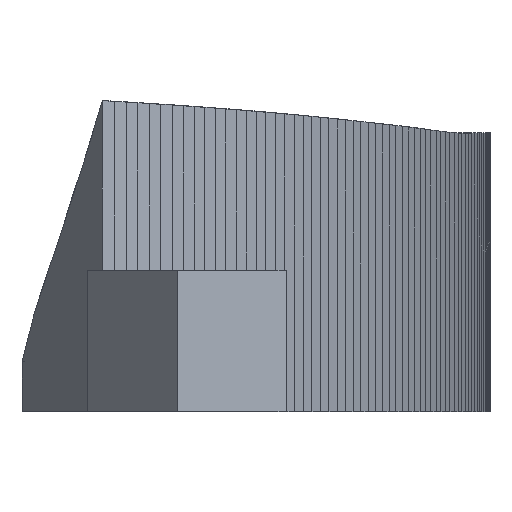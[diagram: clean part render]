
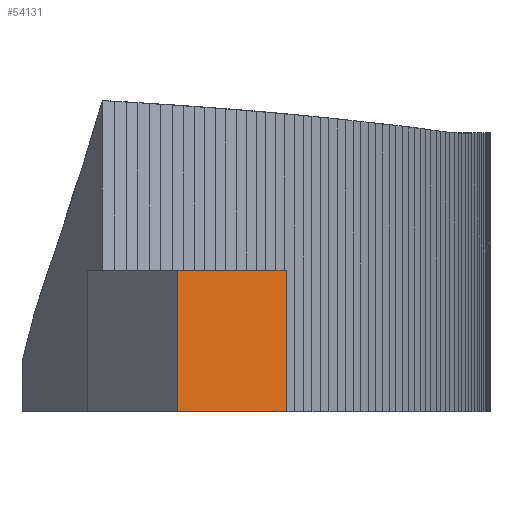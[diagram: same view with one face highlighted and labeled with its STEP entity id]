
A CAD part, front view. The second image highlights one B-rep face of the part: STEP entity #54131.
In plain terms, the highlighted planar face has unit normal (0.64, -0.768, 0).
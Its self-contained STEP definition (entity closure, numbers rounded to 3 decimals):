
#44 = PLANE('',#45);
#45 = AXIS2_PLACEMENT_3D('',#46,#47,#48);
#46 = CARTESIAN_POINT('',(15.682,0.,
    5.176));
#47 = DIRECTION('',(-0.,-0.,-1.));
#48 = DIRECTION('',(-1.,0.,0.));
#24585 = VERTEX_POINT('',#24586);
#24586 = CARTESIAN_POINT('',(15.716,-16.517,
    5.176));
#24600 = PLANE('',#24601);
#24601 = AXIS2_PLACEMENT_3D('',#24602,#24603,#24604);
#24602 = CARTESIAN_POINT('',(13.795,-14.213,
    5.176));
#24603 = DIRECTION('',(0.768,0.64,-0.));
#24604 = DIRECTION('',(0.64,-0.768,0.));
#24612 = EDGE_CURVE('',#24585,#24613,#24615,.T.);
#24613 = VERTEX_POINT('',#24614);
#24614 = CARTESIAN_POINT('',(13.411,-18.438,
    5.176));
#24615 = SURFACE_CURVE('',#24616,(#24620,#24627),.PCURVE_S1.);
#24616 = LINE('',#24617,#24618);
#24617 = CARTESIAN_POINT('',(15.716,-16.517,
    5.176));
#24618 = VECTOR('',#24619,1.);
#24619 = DIRECTION('',(-0.768,-0.64,0.));
#24620 = PCURVE('',#44,#24621);
#24621 = DEFINITIONAL_REPRESENTATION('',(#24622),#24626);
#24622 = LINE('',#24623,#24624);
#24623 = CARTESIAN_POINT('',(-0.034,-16.517));
#24624 = VECTOR('',#24625,1.);
#24625 = DIRECTION('',(0.768,-0.64));
#24626 = ( GEOMETRIC_REPRESENTATION_CONTEXT(2) 
PARAMETRIC_REPRESENTATION_CONTEXT() REPRESENTATION_CONTEXT('2D SPACE',''
  ) );
#24627 = PCURVE('',#24628,#24633);
#24628 = PLANE('',#24629);
#24629 = AXIS2_PLACEMENT_3D('',#24630,#24631,#24632);
#24630 = CARTESIAN_POINT('',(15.716,-16.517,
    5.176));
#24631 = DIRECTION('',(0.64,-0.768,0.));
#24632 = DIRECTION('',(-0.768,-0.64,0.));
#24633 = DEFINITIONAL_REPRESENTATION('',(#24634),#24638);
#24634 = LINE('',#24635,#24636);
#24635 = CARTESIAN_POINT('',(0.,0.));
#24636 = VECTOR('',#24637,1.);
#24637 = DIRECTION('',(1.,0.));
#24638 = ( GEOMETRIC_REPRESENTATION_CONTEXT(2) 
PARAMETRIC_REPRESENTATION_CONTEXT() REPRESENTATION_CONTEXT('2D SPACE',''
  ) );
#24656 = PLANE('',#24657);
#24657 = AXIS2_PLACEMENT_3D('',#24658,#24659,#24660);
#24658 = CARTESIAN_POINT('',(13.411,-18.438,
    5.176));
#24659 = DIRECTION('',(-0.768,-0.64,0.));
#24660 = DIRECTION('',(-0.64,0.768,0.));
#53906 = PLANE('',#53907);
#53907 = AXIS2_PLACEMENT_3D('',#53908,#53909,#53910);
#53908 = CARTESIAN_POINT('',(13.603,-16.325,
    8.176));
#53909 = DIRECTION('',(-0.,-0.,-1.));
#53910 = DIRECTION('',(-1.,0.,0.));
#54062 = VERTEX_POINT('',#54063);
#54063 = CARTESIAN_POINT('',(15.716,-16.517,
    8.176));
#54084 = EDGE_CURVE('',#24585,#54062,#54085,.T.);
#54085 = SURFACE_CURVE('',#54086,(#54090,#54097),.PCURVE_S1.);
#54086 = LINE('',#54087,#54088);
#54087 = CARTESIAN_POINT('',(15.716,-16.517,
    5.176));
#54088 = VECTOR('',#54089,1.);
#54089 = DIRECTION('',(0.,0.,1.));
#54090 = PCURVE('',#24600,#54091);
#54091 = DEFINITIONAL_REPRESENTATION('',(#54092),#54096);
#54092 = LINE('',#54093,#54094);
#54093 = CARTESIAN_POINT('',(3.,0.));
#54094 = VECTOR('',#54095,1.);
#54095 = DIRECTION('',(0.,-1.));
#54096 = ( GEOMETRIC_REPRESENTATION_CONTEXT(2) 
PARAMETRIC_REPRESENTATION_CONTEXT() REPRESENTATION_CONTEXT('2D SPACE',''
  ) );
#54097 = PCURVE('',#24628,#54098);
#54098 = DEFINITIONAL_REPRESENTATION('',(#54099),#54103);
#54099 = LINE('',#54100,#54101);
#54100 = CARTESIAN_POINT('',(0.,0.));
#54101 = VECTOR('',#54102,1.);
#54102 = DIRECTION('',(0.,-1.));
#54103 = ( GEOMETRIC_REPRESENTATION_CONTEXT(2) 
PARAMETRIC_REPRESENTATION_CONTEXT() REPRESENTATION_CONTEXT('2D SPACE',''
  ) );
#54131 = ADVANCED_FACE('',(#54132),#24628,.T.);
#54132 = FACE_BOUND('',#54133,.T.);
#54133 = EDGE_LOOP('',(#54134,#54135,#54158,#54179));
#54134 = ORIENTED_EDGE('',*,*,#54084,.T.);
#54135 = ORIENTED_EDGE('',*,*,#54136,.T.);
#54136 = EDGE_CURVE('',#54062,#54137,#54139,.T.);
#54137 = VERTEX_POINT('',#54138);
#54138 = CARTESIAN_POINT('',(13.411,-18.438,
    8.176));
#54139 = SURFACE_CURVE('',#54140,(#54144,#54151),.PCURVE_S1.);
#54140 = LINE('',#54141,#54142);
#54141 = CARTESIAN_POINT('',(15.716,-16.517,
    8.176));
#54142 = VECTOR('',#54143,1.);
#54143 = DIRECTION('',(-0.768,-0.64,0.));
#54144 = PCURVE('',#24628,#54145);
#54145 = DEFINITIONAL_REPRESENTATION('',(#54146),#54150);
#54146 = LINE('',#54147,#54148);
#54147 = CARTESIAN_POINT('',(0.,-3.));
#54148 = VECTOR('',#54149,1.);
#54149 = DIRECTION('',(1.,0.));
#54150 = ( GEOMETRIC_REPRESENTATION_CONTEXT(2) 
PARAMETRIC_REPRESENTATION_CONTEXT() REPRESENTATION_CONTEXT('2D SPACE',''
  ) );
#54151 = PCURVE('',#53906,#54152);
#54152 = DEFINITIONAL_REPRESENTATION('',(#54153),#54157);
#54153 = LINE('',#54154,#54155);
#54154 = CARTESIAN_POINT('',(-2.113,-0.192));
#54155 = VECTOR('',#54156,1.);
#54156 = DIRECTION('',(0.768,-0.64));
#54157 = ( GEOMETRIC_REPRESENTATION_CONTEXT(2) 
PARAMETRIC_REPRESENTATION_CONTEXT() REPRESENTATION_CONTEXT('2D SPACE',''
  ) );
#54158 = ORIENTED_EDGE('',*,*,#54159,.F.);
#54159 = EDGE_CURVE('',#24613,#54137,#54160,.T.);
#54160 = SURFACE_CURVE('',#54161,(#54165,#54172),.PCURVE_S1.);
#54161 = LINE('',#54162,#54163);
#54162 = CARTESIAN_POINT('',(13.411,-18.438,
    5.176));
#54163 = VECTOR('',#54164,1.);
#54164 = DIRECTION('',(0.,0.,1.));
#54165 = PCURVE('',#24628,#54166);
#54166 = DEFINITIONAL_REPRESENTATION('',(#54167),#54171);
#54167 = LINE('',#54168,#54169);
#54168 = CARTESIAN_POINT('',(3.,0.));
#54169 = VECTOR('',#54170,1.);
#54170 = DIRECTION('',(0.,-1.));
#54171 = ( GEOMETRIC_REPRESENTATION_CONTEXT(2) 
PARAMETRIC_REPRESENTATION_CONTEXT() REPRESENTATION_CONTEXT('2D SPACE',''
  ) );
#54172 = PCURVE('',#24656,#54173);
#54173 = DEFINITIONAL_REPRESENTATION('',(#54174),#54178);
#54174 = LINE('',#54175,#54176);
#54175 = CARTESIAN_POINT('',(0.,0.));
#54176 = VECTOR('',#54177,1.);
#54177 = DIRECTION('',(0.,-1.));
#54178 = ( GEOMETRIC_REPRESENTATION_CONTEXT(2) 
PARAMETRIC_REPRESENTATION_CONTEXT() REPRESENTATION_CONTEXT('2D SPACE',''
  ) );
#54179 = ORIENTED_EDGE('',*,*,#24612,.F.);
